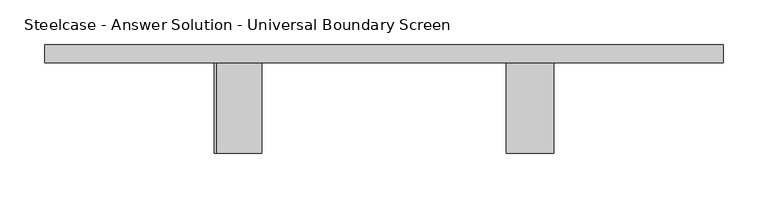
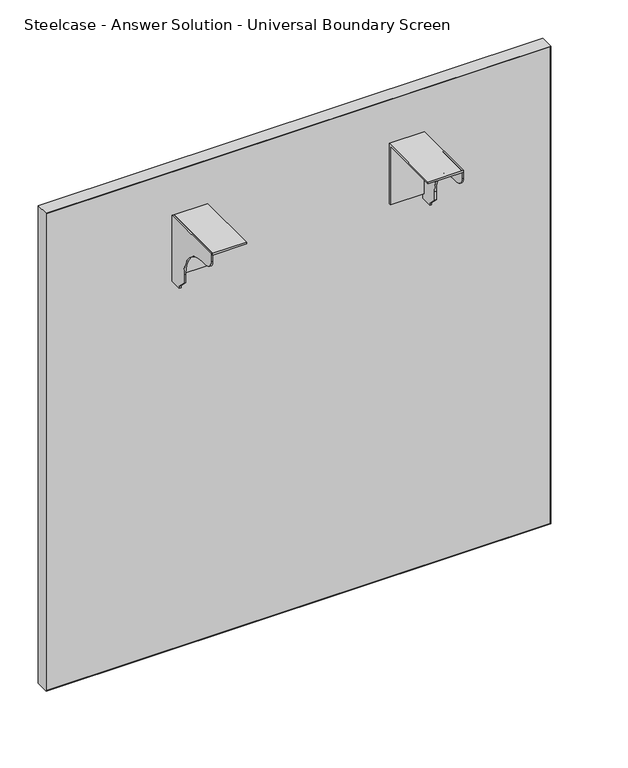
"""IFC4 building model written with IfcOpenShell, lengths in millimetres: furniture geometry, Steelcase - Answer Solution - Universal Boundary Screen : 30H x 30W."""

from ifc_helpers import new_model, si_unit, point, frame, frame_2d, origin, place, context, project, spatial, polyline, circle_curve, trimmed, segment, composite_curve, outline, extrude, source, transform, mapped, element, save


def steelcase_answer_solution_universal_boundary_screen_af7e1010(model_context):
    return source(origin(), model_context, "Body", "SweptSolid", [
        extrude(outline(polyline([(-103.1670434, 689.3558876), (-103.1670434, 692.1499758), (-1.5668826, 692.1499758), (-1.5668826, 595.5029317), (-4.1079736, 595.5029317), (-4.1079736, 689.3558876), (-103.1670434, 689.3558876)])), frame((667.2336711, 0.0, 0.0), z_axis=(1.0, 0.0, 0.0), x_axis=(0.0, 1.0, 0.0)), (0.0, 0.0, 1.0), 53.3444116),
        extrude(outline(composite_curve([segment(polyline([(-103.1670434, 679.2814802), (-103.1670434, 692.1499758), (-1.5668826, 692.1499758), (-1.5668826, 586.9634093), (-19.8232934, 586.9634093), (-19.8232934, 589.7574248), (-32.0458032, 601.9799346), (-32.0458032, 615.7814802)]), True, "CONTINUOUS"), segment(trimmed(circle_curve(frame_2d((-82.8458032, 615.7814802)), 50.8), [point((-32.0458032, 615.7814802))], [point((-82.8458032, 666.5814802))], True, "CARTESIAN"), True, "CONTINUOUS"), segment(polyline([(-82.8458032, 666.5814802), (-90.4670434, 666.5814802)]), True, "CONTINUOUS"), segment(trimmed(circle_curve(frame_2d((-90.4670434, 679.2814802)), 12.7), [point((-90.4670434, 666.5814802))], [point((-103.1670434, 679.2814802))], False, "CARTESIAN"), True, "CONTINUOUS")], self_intersect=False)), frame((718.0328959, 0.0, 0.0), z_axis=(1.0, 0.0, 0.0), x_axis=(0.0, 1.0, 0.0)), (0.0, 0.0, 1.0), 2.5451868),
        extrude(outline(polyline([(-103.1670434, 689.3558876), (-103.1670434, 692.1499758), (-1.5668826, 692.1499758), (-1.5668826, 595.5029317), (-4.1079736, 595.5029317), (-4.1079736, 689.3558876), (-103.1670434, 689.3558876)])), frame((342.1232694, 0.0, 0.0), z_axis=(1.0, 0.0, 0.0), x_axis=(0.0, 1.0, 0.0)), (0.0, 0.0, 1.0), 50.7992249),
        extrude(outline(composite_curve([segment(polyline([(-103.1670434, 679.2814802), (-103.1670434, 692.1499758), (-1.5668826, 692.1499758), (-1.5668826, 586.9634093), (-19.8232934, 586.9634093), (-19.8232934, 589.7574248), (-32.0458032, 601.9799346), (-32.0458032, 615.7814802)]), True, "CONTINUOUS"), segment(trimmed(circle_curve(frame_2d((-82.8458032, 615.7814802)), 50.8), [point((-32.0458032, 615.7814802))], [point((-82.8458032, 666.5814802))], True, "CARTESIAN"), True, "CONTINUOUS"), segment(polyline([(-82.8458032, 666.5814802), (-90.4670434, 666.5814802)]), True, "CONTINUOUS"), segment(trimmed(circle_curve(frame_2d((-90.4670434, 679.2814802)), 12.7), [point((-90.4670434, 666.5814802))], [point((-103.1670434, 679.2814802))], False, "CARTESIAN"), True, "CONTINUOUS")], self_intersect=False)), frame((339.5780827, 0.0, 0.0), z_axis=(1.0, 0.0, 0.0), x_axis=(0.0, 1.0, 0.0)), (0.0, 0.0, 1.0), 2.5451868),
        extrude(outline(polyline([(150.0706578, 18.9055112), (910.0855076, 18.9055112), (910.0855076, -1.5668826), (150.0706578, -1.5668826), (150.0706578, 18.9055112)])), frame((0.0, 0.0, 1.016), z_axis=(0.0, 0.0, 1.0), x_axis=(1.0, 0.0, 0.0)), (0.0, 0.0, 1.0), 759.9914249),
        extrude(outline(polyline([(762.0, 911.0780827), (762.0, 149.0780827), (0.0, 149.0780827), (0.0, 911.0780827), (762.0, 911.0780827)]), holes=[polyline([(761.0074249, 910.0855076), (1.016, 910.0855076), (1.016, 150.0706578), (761.0074249, 150.0706578), (761.0074249, 910.0855076)])]), frame((0.0, -1.5668826, 0.0), z_axis=(0.0, 1.0, 0.0), x_axis=(0.0, 0.0, 1.0)), (0.0, 0.0, 1.0), 20.4723938),
    ])


if __name__ == "__main__":
    model = new_model("IFC4")
    model_context = context("Model", 3, world=origin())
    ifc_project = project(units=[si_unit("LENGTHUNIT", "METRE", prefix="MILLI")], contexts=[model_context])
    site = spatial("IfcSite", under=ifc_project)
    building = spatial("IfcBuilding", under=site)
    placement = place(None, origin())
    steelcase_answer_solution_universal_boundary_screen_shape = steelcase_answer_solution_universal_boundary_screen_af7e1010(model_context)
    element("IfcFurniture", 1, ObjectType="Steelcase - Answer Solution - Universal Boundary Screen : 30H x 30W", at=placement, inside=building, context=model_context, shape_type="MappedRepresentation", body=[
        mapped(steelcase_answer_solution_universal_boundary_screen_shape, transform((0.0, 0.0, 0.0), x_axis=(1.0, 0.0, 0.0), y_axis=(0.0, 1.0, 0.0), z_axis=(0.0, 0.0, 1.0))),
    ])
    save(model, "model.ifc")
